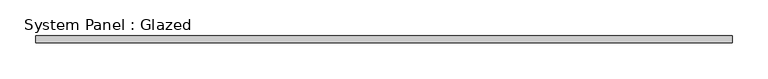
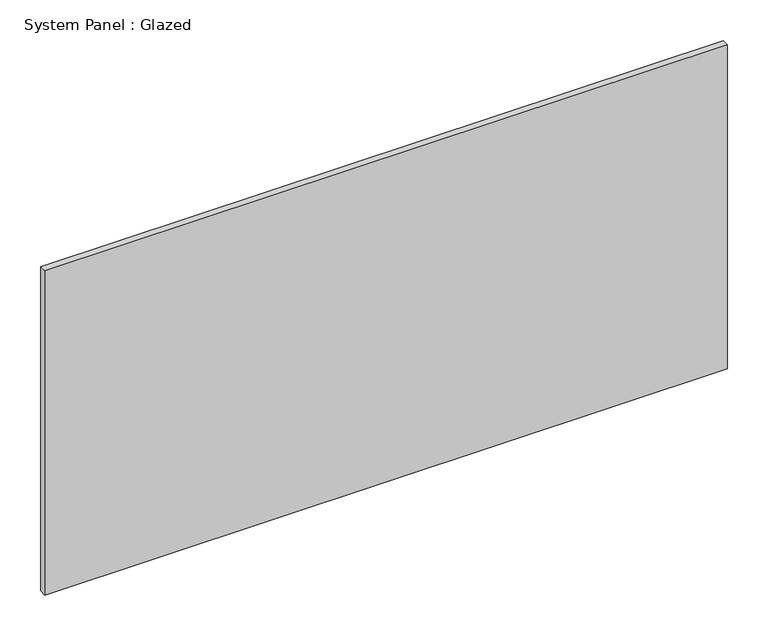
"""IFC4 building model written with IfcOpenShell, lengths in millimetres: plate geometry, System Panel : Glazed."""

from ifc_helpers import new_model, si_unit, origin, origin_with_axes, place, context, project, spatial, polyline, outline, extrude, source, transform, mapped, element, save


def system_panel_glazed_57f87d7f(model_context):
    return source(origin(), model_context, "Body", "SweptSolid", [
        extrude(outline(polyline([(486.3037323, -5.0), (-486.3037323, -5.0), (-486.3037323, 5.0), (486.3037323, 5.0), (486.3037323, -5.0)])), origin_with_axes(), (0.0, 0.0, 1.0), 488.3333333),
    ])


if __name__ == "__main__":
    model = new_model("IFC4")
    model_context = context("Model", 3, world=origin())
    ifc_project = project(units=[si_unit("LENGTHUNIT", "METRE", prefix="MILLI")], contexts=[model_context])
    site = spatial("IfcSite", under=ifc_project)
    building = spatial("IfcBuilding", under=site)
    placement = place(None, origin())
    system_panel_glazed_shape = system_panel_glazed_57f87d7f(model_context)
    element("IfcPlate", 1, ObjectType="System Panel : Glazed", at=placement, inside=building, context=model_context, shape_type="MappedRepresentation", body=[
        mapped(system_panel_glazed_shape, transform((0.0, 0.0, 0.0), x_axis=(1.0, 0.0, 0.0), y_axis=(0.0, 1.0, 0.0), z_axis=(0.0, 0.0, 1.0))),
    ])
    save(model, "model.ifc")
